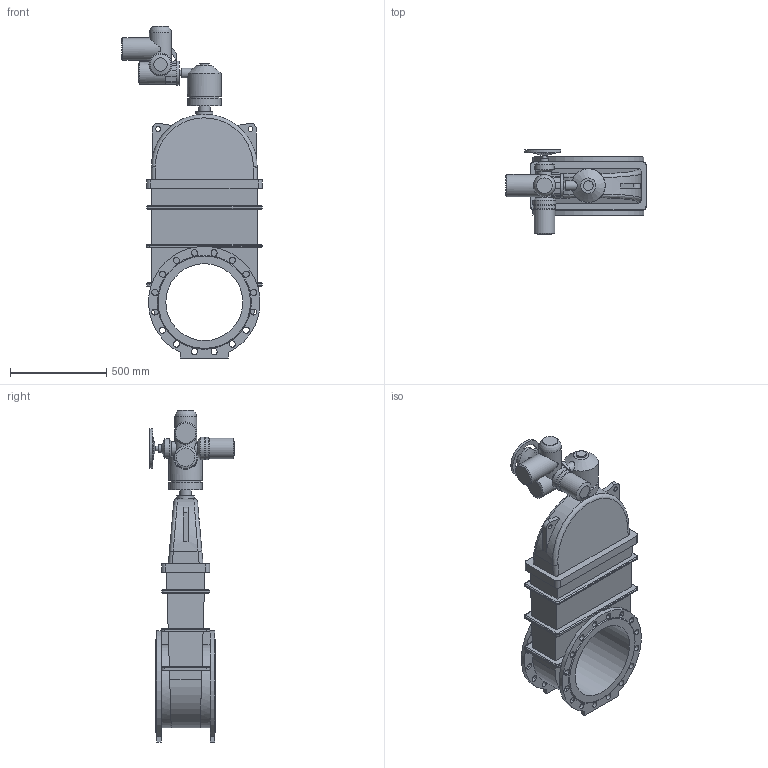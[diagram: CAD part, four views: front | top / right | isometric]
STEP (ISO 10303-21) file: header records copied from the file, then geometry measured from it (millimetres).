
FILE_DESCRIPTION(('STEP AP203'), '1');
FILE_NAME('Çàäâèæêà 47GV.Z DN400 PN10_PN16 + ðåäóêòîð+ÌÒ903.À07', '', ('UNSPECIFIED'), ('UNSPECIFIED'), 'ASCON STEP Converter 1.6', 'ASCON Math Kernel', '');
FILE_SCHEMA(('CONFIG_CONTROL_DESIGN'));
Length unit declared in the file: millimetre
Bounding box: 728 x 440 x 1725 mm (x, y, z)
Volume: 107605066 mm3; surface area: 3467724.7 mm2
Topology: 1 solids, 1 shells, 417 faces, 1166 edges, 753 vertices
Faces by surface type: plane 209, cylinder 173, bspline 22, cone 12, torus 1
Full cylindrical faces by diameter (mm): 8.5 x4, 12 x4, 14 x4, 18 x4, 24 x1, 25 x2, 30 x1, 42 x1, 50 x2, 60 x1, 66 x1, 72 x1, 80 x1, 90 x1, 100 x1, 108 x1, 114 x1, 115 x1, 116 x2, 119 x1, 125 x1, 155 x1, 175 x2, 400 x1
Entity records: 21712 total; most frequent: CARTESIAN_POINT 7766, ORIENTED_EDGE 2224, DIRECTION 2150, EDGE_CURVE 1112, AXIS2_PLACEMENT_3D 787, VERTEX_POINT 753, LINE 576, VECTOR 576
